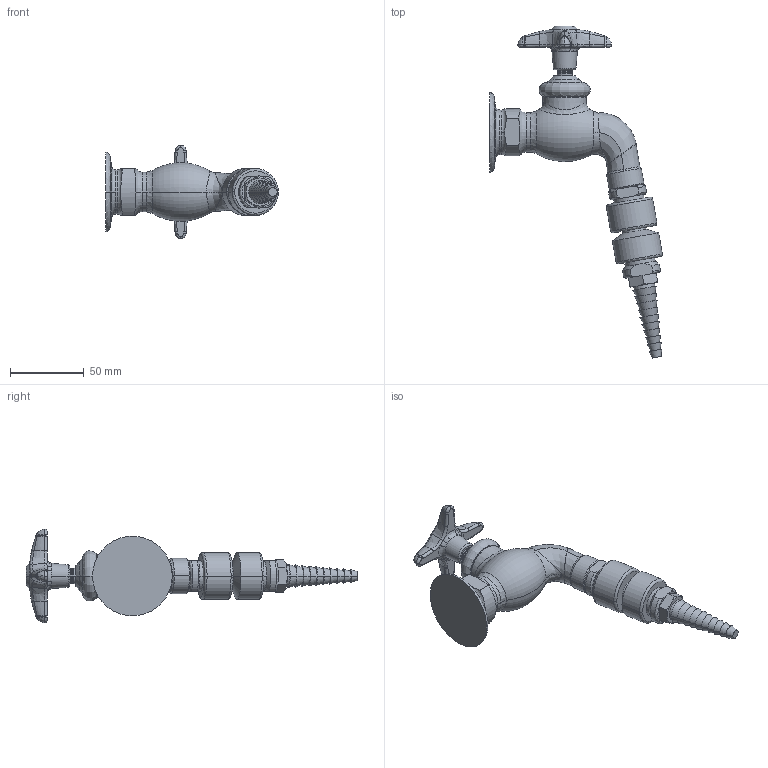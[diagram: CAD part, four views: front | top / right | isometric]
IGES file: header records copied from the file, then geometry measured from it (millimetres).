
Start section:  PTC IGES file: LWV3-C44.igs
Global section: file name: LWV3-C44.igs; native system: Creo Parametric by PTC Inc.; preprocessor: 2014500; author: usch_engrender; organization: Unknown; date: 20150910.122416; units: inch
Bounding box: 116.95 x 224.82 x 63.42 mm (x, y, z)
Volume: 165049.7 mm3; surface area: 32356.6 mm2
Topology: 1 solids, 2 shells, 320 faces, 710 edges, 413 vertices
Faces by surface type: bspline 196, revolution 124
